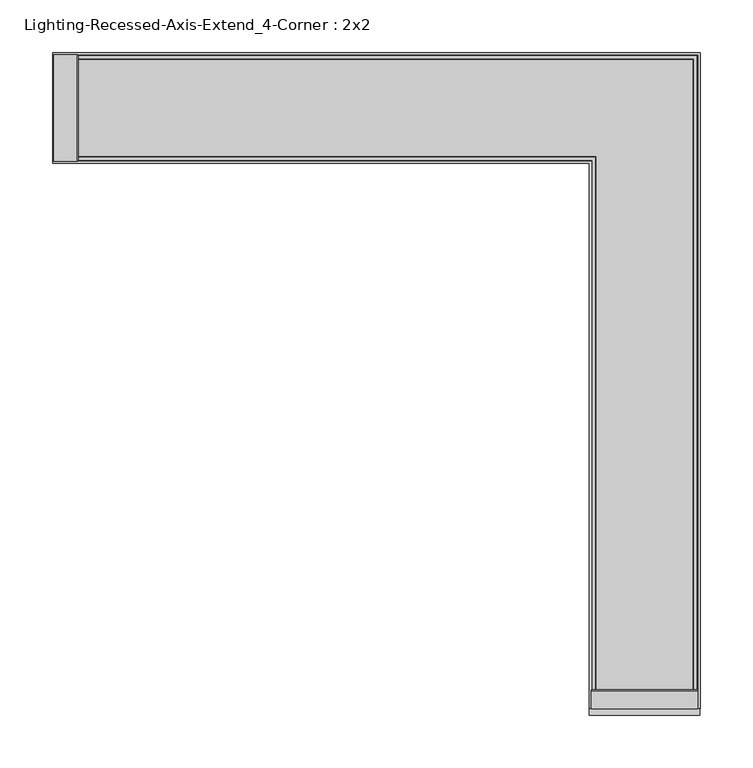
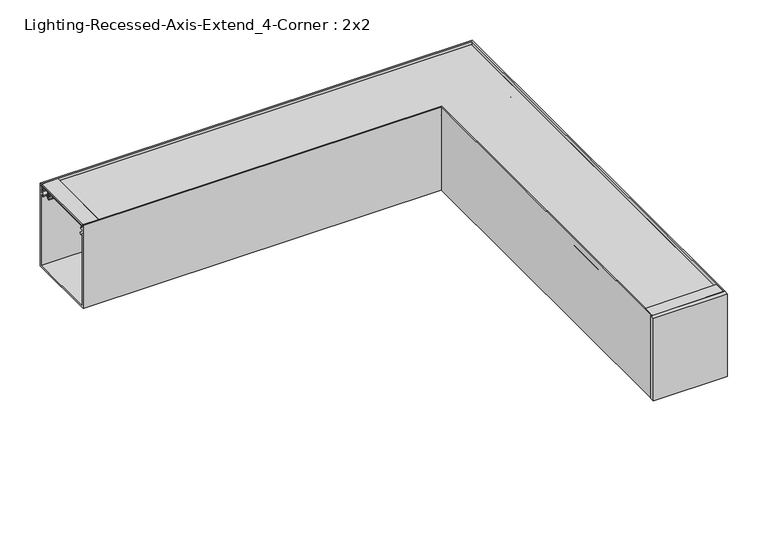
"""IFC4 building model written with IfcOpenShell, lengths in millimetres: light fixture geometry, Lighting-Recessed-Axis-Extend_4-Corner : 2x2."""

from ifc_helpers import new_model, si_unit, frame, origin, place, context, project, spatial, polyline, circle_curve, ellipse_curve, outline, extrude, source, transform, mapped, element, save
from ifc_brep_helpers import plane_surface, cylinder_surface, revolved_surface, advanced_brep


def lighting_recessed_axis_extend_4_corner_2x2_4d560086(model_context):
    return source(origin(), model_context, "Body", "SolidModel", [
        extrude(outline(polyline([(-1.1017139, -539.09849), (0.0, -540.0230337), (0.0, -562.3801463), (-1.1017139, -563.30469), (-2.57175, -563.30469), (-2.57175, -562.51094), (-1.778, -562.51094), (-1.778, -556.04029), (-4.5842019, -556.04029), (-4.5842019, -546.36289), (-1.778, -546.36289), (-1.778, -539.89224), (-2.57175, -539.89224), (-2.57175, -539.09849), (-1.1017139, -539.09849)])), frame((0.0, -50.75301, 0.0), z_axis=(0.0, 1.0, 0.0), x_axis=(0.0, 0.0, 1.0)), (0.0, 0.0, 1.0), 101.50602),
        extrude(outline(polyline([(-553.48759, -1.1017139), (-553.48759, -2.57175), (-554.28134, -2.57175), (-554.28134, -1.778), (-561.13299, -1.778), (-561.13299, -4.5842019), (-571.80099, -4.5842019), (-571.80099, 0.0), (-554.4121337, 0.0), (-553.48759, -1.1017139)])), frame((-50.75301, 0.0, 0.0), z_axis=(1.0, 0.0, 0.0), x_axis=(0.0, 1.0, 0.0)), (0.0, 0.0, 1.0), 101.50602),
        extrude(outline(polyline([(-52.78501, -571.80099), (52.78501, -571.80099), (52.78501, -578.15099), (-52.78501, -578.15099), (-52.78501, -571.80099)])), frame((0.0, 0.0, -124.7775), z_axis=(0.0, 0.0, 1.0), x_axis=(1.0, 0.0, 0.0)), (0.0, 0.0, 1.0), 124.7775),
        advanced_brep(
        [(-556.81499, -44.9537362, -4.8895009), (-556.81499, -45.2924281, -11.3521263), (-556.81499, -46.1628914, -17.9580097), (-556.81499, -45.3476056, -19.4557425), (-556.81499, -43.9929166, -20.6551445), (-556.81499, -44.973818, -21.9831631), (-556.81499, -46.5470052, -20.5903092), (-556.81499, -47.8918907, -16.75974), (-556.81499, -46.2564041, -12.7205342), (-556.81499, -46.9204959, -10.8713211), (-556.81499, -46.607002, -4.8895009), (-556.81499, -49.61001, -4.8895009), (-556.81499, -49.61001, -2.9845), (-556.81499, 49.61001, -2.9845), (-556.81499, 49.61001, -4.8895009), (-556.81499, 46.607002, -4.8895009), (-556.81499, 46.9204959, -10.8713211), (-556.81499, 46.2564041, -12.7205342), (-556.81499, 47.8918907, -16.75974), (-556.81499, 46.5470052, -20.5903092), (-556.81499, 44.973818, -21.9831631), (-556.81499, 43.9929166, -20.6551445), (-556.81499, 45.3476056, -19.4557425), (-556.81499, 46.1628914, -17.9580097), (-556.81499, 45.2924281, -11.3521263), (-556.81499, 44.9537362, -4.8895009), (-44.9537362, -556.81499, -4.8895009), (44.9537362, -556.81499, -4.8895009), (45.2924281, -556.81499, -11.3521263), (46.1628914, -556.81499, -17.9580097), (45.3476056, -556.81499, -19.4557425), (43.9929166, -556.81499, -20.6551445), (44.973818, -556.81499, -21.9831631), (46.5470052, -556.81499, -20.5903092), (47.8918907, -556.81499, -16.75974), (46.2564041, -556.81499, -12.7205342), (46.9204959, -556.81499, -10.8713211), (46.607002, -556.81499, -4.8895009), (49.61001, -556.81499, -4.8895009), (49.61001, -556.81499, -2.9845), (-49.61001, -556.81499, -2.9845), (-49.61001, -556.81499, -4.8895009), (-46.607002, -556.81499, -4.8895009), (-46.9204959, -556.81499, -10.8713211), (-46.2564041, -556.81499, -12.7205342), (-47.8918907, -556.81499, -16.75974), (-46.5470052, -556.81499, -20.5903092), (-44.973818, -556.81499, -21.9831631), (-43.9929166, -556.81499, -20.6551445), (-45.3476056, -556.81499, -19.4557425), (-46.1628914, -556.81499, -17.9580097), (-45.2924281, -556.81499, -11.3521263), (-44.9537362, -44.9537362, -4.8895009), (-45.2924281, -45.2924281, -11.3521263), (-46.1628914, -46.1628914, -17.9580097), (-45.3476056, -45.3476056, -19.4557425), (-43.9929166, -43.9929166, -20.6551445), (-44.973818, -44.973818, -21.9831631), (-46.5470052, -46.5470052, -20.5903092), (-47.8918907, -47.8918907, -16.75974), (-46.2564041, -46.2564041, -12.7205342), (-46.9204959, -46.9204959, -10.8713211), (-46.607002, -46.607002, -4.8895009), (-49.61001, -49.61001, -4.8895009), (-49.61001, -49.61001, -2.9845), (49.61001, 49.61001, -2.9845), (44.9537362, 44.9537362, -4.8895009), (49.61001, 49.61001, -4.8895009), (46.607002, 46.607002, -4.8895009), (46.9204959, 46.9204959, -10.8713211), (46.2564041, 46.2564041, -12.7205342), (47.8918907, 47.8918907, -16.75974), (46.5470052, 46.5470052, -20.5903092), (44.973818, 44.973818, -21.9831631), (43.9929166, 43.9929166, -20.6551445), (45.3476056, 45.3476056, -19.4557425), (46.1628914, 46.1628914, -17.9580097), (45.2924281, 45.2924281, -11.3521263)],
        [
            (0, 1),
            (1, 2, circle_curve(frame((-556.81499, -48.03521, -14.351), z_axis=(-1.0, 0.0, 0.0), x_axis=(0.0, 0.6748971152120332, 0.7379118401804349)), 4.064)),
            (2, 3, circle_curve(frame((-556.81499, -42.930354, -17.1691543), z_axis=(1.0, 0.0, 0.0), x_axis=(0.0, -0.9714904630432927, -0.23707863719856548)), 3.3274001)),
            (3, 4, circle_curve(frame((-556.81499, -37.9113277, -12.4214292), z_axis=(1.0, 0.0, 0.0), x_axis=(0.0, -0.7264901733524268, -0.68717685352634)), 10.2362001)),
            (4, 5, circle_curve(frame((-556.81499, -44.4833673, -21.3191538), z_axis=(-1.0, 0.0, 0.0), x_axis=(0.0, 0.5941256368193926, 0.8043722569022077)), 0.8255)),
            (5, 6, circle_curve(frame((-556.81499, -37.9113269, -12.4214283), z_axis=(-1.0, 0.0, 0.0), x_axis=(0.0, -0.594125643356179, -0.8043722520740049)), 11.8872013)),
            (6, 7, circle_curve(frame((-556.81499, -42.930354, -17.1691543), z_axis=(-1.0, 0.0, 0.0), x_axis=(0.0, -0.7264685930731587, -0.6871996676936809)), 4.9784001)),
            (7, 8, circle_curve(frame((-556.81499, -48.03521, -14.351), z_axis=(1.0, 0.0, 0.0), x_axis=(0.0, 0.05939464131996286, -0.9982345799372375)), 2.413)),
            (8, 9, circle_curve(frame((-556.81499, -44.3839769, -11.0042544), z_axis=(-1.0, 0.0, 0.0), x_axis=(0.0, -0.7371760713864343, -0.675700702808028)), 2.54)),
            (9, 10),
            (10, 11),
            (11, 12),
            (12, 13),
            (13, 14),
            (14, 15),
            (15, 16),
            (16, 17, circle_curve(frame((-556.81499, 44.3839769, -11.0042544), z_axis=(-1.0, 0.0, 0.0), x_axis=(0.0, 0.7371760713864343, -0.675700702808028)), 2.54)),
            (17, 18, circle_curve(frame((-556.81499, 48.03521, -14.351), z_axis=(1.0, 0.0, 0.0), x_axis=(0.0, -0.05939464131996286, -0.9982345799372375)), 2.413)),
            (18, 19, circle_curve(frame((-556.81499, 42.930354, -17.1691543), z_axis=(-1.0, 0.0, 0.0), x_axis=(0.0, 0.7264685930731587, -0.6871996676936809)), 4.9784001)),
            (19, 20, circle_curve(frame((-556.81499, 37.9113269, -12.4214283), z_axis=(-1.0, 0.0, 0.0), x_axis=(0.0, 0.594125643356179, -0.8043722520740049)), 11.8872013)),
            (20, 21, circle_curve(frame((-556.81499, 44.4833673, -21.3191538), z_axis=(-1.0, 0.0, 0.0), x_axis=(0.0, -0.5941256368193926, 0.8043722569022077)), 0.8255)),
            (21, 22, circle_curve(frame((-556.81499, 37.9113277, -12.4214292), z_axis=(1.0, 0.0, 0.0), x_axis=(0.0, 0.7264901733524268, -0.68717685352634)), 10.2362001)),
            (22, 23, circle_curve(frame((-556.81499, 42.930354, -17.1691543), z_axis=(1.0, 0.0, 0.0), x_axis=(0.0, 0.9714904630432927, -0.23707863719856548)), 3.3274001)),
            (23, 24, circle_curve(frame((-556.81499, 48.03521, -14.351), z_axis=(-1.0, 0.0, 0.0), x_axis=(0.0, -0.6748971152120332, 0.7379118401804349)), 4.064)),
            (24, 25),
            (25, 0),
            (26, 27),
            (27, 28),
            (28, 29, circle_curve(frame((48.03521, -556.81499, -14.351), z_axis=(0.0, -1.0, 0.0), x_axis=(-0.6748971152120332, 0.0, 0.7379118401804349)), 4.064)),
            (29, 30, circle_curve(frame((42.930354, -556.81499, -17.1691543), z_axis=(0.0, 1.0, 0.0), x_axis=(0.9714904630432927, 0.0, -0.23707863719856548)), 3.3274001)),
            (30, 31, circle_curve(frame((37.9113277, -556.81499, -12.4214292), z_axis=(0.0, 1.0, 0.0), x_axis=(0.7264901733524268, 0.0, -0.68717685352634)), 10.2362001)),
            (31, 32, circle_curve(frame((44.4833673, -556.81499, -21.3191538), z_axis=(0.0, -1.0, 0.0), x_axis=(-0.5941256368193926, 0.0, 0.8043722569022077)), 0.8255)),
            (32, 33, circle_curve(frame((37.9113269, -556.81499, -12.4214283), z_axis=(0.0, -1.0, 0.0), x_axis=(0.594125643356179, 0.0, -0.8043722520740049)), 11.8872013)),
            (33, 34, circle_curve(frame((42.930354, -556.81499, -17.1691543), z_axis=(0.0, -1.0, 0.0), x_axis=(0.7264685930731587, 0.0, -0.6871996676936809)), 4.9784001)),
            (34, 35, circle_curve(frame((48.03521, -556.81499, -14.351), z_axis=(0.0, 1.0, 0.0), x_axis=(-0.05939464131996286, 0.0, -0.9982345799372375)), 2.413)),
            (35, 36, circle_curve(frame((44.3839769, -556.81499, -11.0042544), z_axis=(0.0, -1.0, 0.0), x_axis=(0.7371760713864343, 0.0, -0.675700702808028)), 2.54)),
            (36, 37),
            (37, 38),
            (38, 39),
            (39, 40),
            (40, 41),
            (41, 42),
            (42, 43),
            (43, 44, circle_curve(frame((-44.3839769, -556.81499, -11.0042544), z_axis=(0.0, -1.0, 0.0), x_axis=(-0.7371760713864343, 0.0, -0.675700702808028)), 2.54)),
            (44, 45, circle_curve(frame((-48.03521, -556.81499, -14.351), z_axis=(0.0, 1.0, 0.0), x_axis=(0.05939464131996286, 0.0, -0.9982345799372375)), 2.413)),
            (45, 46, circle_curve(frame((-42.930354, -556.81499, -17.1691543), z_axis=(0.0, -1.0, 0.0), x_axis=(-0.7264685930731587, 0.0, -0.6871996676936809)), 4.9784001)),
            (46, 47, circle_curve(frame((-37.9113269, -556.81499, -12.4214283), z_axis=(0.0, -1.0, 0.0), x_axis=(-0.594125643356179, 0.0, -0.8043722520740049)), 11.8872013)),
            (47, 48, circle_curve(frame((-44.4833673, -556.81499, -21.3191538), z_axis=(0.0, -1.0, 0.0), x_axis=(0.5941256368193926, 0.0, 0.8043722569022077)), 0.8255)),
            (48, 49, circle_curve(frame((-37.9113277, -556.81499, -12.4214292), z_axis=(0.0, 1.0, 0.0), x_axis=(-0.7264901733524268, 0.0, -0.68717685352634)), 10.2362001)),
            (49, 50, circle_curve(frame((-42.930354, -556.81499, -17.1691543), z_axis=(0.0, 1.0, 0.0), x_axis=(-0.9714904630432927, 0.0, -0.23707863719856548)), 3.3274001)),
            (50, 51, circle_curve(frame((-48.03521, -556.81499, -14.351), z_axis=(0.0, -1.0, 0.0), x_axis=(0.6748971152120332, 0.0, 0.7379118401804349)), 4.064)),
            (51, 26),
            (0, 52),
            (52, 53),
            (53, 1),
            (53, 54, ellipse_curve(frame((-48.03521, -48.03521, -14.351), z_axis=(-0.7071067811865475, 0.7071067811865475, 0.0), x_axis=(-0.7071067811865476, -0.7071067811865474, 0.0)), 5.7473639, 4.064)),
            (54, 2),
            (54, 55, ellipse_curve(frame((-42.930354, -42.930354, -17.1691543), z_axis=(0.7071067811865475, -0.7071067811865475, 0.0), x_axis=(0.7071067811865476, 0.7071067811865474, 0.0)), 4.7056543, 3.3274001)),
            (55, 3),
            (55, 56, ellipse_curve(frame((-37.9113277, -37.9113277, -12.4214292), z_axis=(0.7071067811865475, -0.7071067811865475, 0.0), x_axis=(0.7071067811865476, 0.7071067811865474, 0.0)), 14.476173, 10.2362001)),
            (56, 4),
            (56, 57, ellipse_curve(frame((-44.4833673, -44.4833673, -21.3191538), z_axis=(-0.7071067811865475, 0.7071067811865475, 0.0), x_axis=(-0.7071067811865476, -0.7071067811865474, 0.0)), 1.1674333, 0.8255)),
            (57, 5),
            (57, 58, ellipse_curve(frame((-37.9113269, -37.9113269, -12.4214283), z_axis=(-0.7071067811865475, 0.7071067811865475, 0.0), x_axis=(-0.7071067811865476, -0.7071067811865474, 0.0)), 16.8110412, 11.8872013)),
            (58, 6),
            (58, 59, ellipse_curve(frame((-42.930354, -42.930354, -17.1691543), z_axis=(-0.7071067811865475, 0.7071067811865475, 0.0), x_axis=(-0.7071067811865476, -0.7071067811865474, 0.0)), 7.0405209, 4.9784001)),
            (59, 7),
            (59, 60, ellipse_curve(frame((-48.03521, -48.03521, -14.351), z_axis=(0.7071067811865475, -0.7071067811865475, 0.0), x_axis=(0.7071067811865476, 0.7071067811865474, 0.0)), 3.4124973, 2.413)),
            (60, 8),
            (60, 61, ellipse_curve(frame((-44.3839769, -44.3839769, -11.0042544), z_axis=(-0.7071067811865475, 0.7071067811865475, 0.0), x_axis=(-0.7071067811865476, -0.7071067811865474, 0.0)), 3.5921024, 2.54)),
            (61, 9),
            (61, 62),
            (62, 10),
            (62, 42),
            (41, 63),
            (63, 11),
            (63, 64),
            (64, 12),
            (64, 40),
            (39, 65),
            (65, 13),
            (25, 66),
            (66, 27),
            (26, 52),
            (65, 67),
            (67, 14),
            (67, 38),
            (37, 68),
            (68, 15),
            (68, 69),
            (69, 16),
            (69, 70, ellipse_curve(frame((44.3839769, 44.3839769, -11.0042544), z_axis=(-0.7071067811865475, 0.7071067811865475, 0.0), x_axis=(-0.7071067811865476, -0.7071067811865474, 0.0)), 3.5921024, 2.54)),
            (70, 17),
            (70, 71, ellipse_curve(frame((48.03521, 48.03521, -14.351), z_axis=(0.7071067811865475, -0.7071067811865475, 0.0), x_axis=(0.7071067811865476, 0.7071067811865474, 0.0)), 3.4124973, 2.413)),
            (71, 18),
            (71, 72, ellipse_curve(frame((42.930354, 42.930354, -17.1691543), z_axis=(-0.7071067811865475, 0.7071067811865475, 0.0), x_axis=(-0.7071067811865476, -0.7071067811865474, 0.0)), 7.0405209, 4.9784001)),
            (72, 19),
            (72, 73, ellipse_curve(frame((37.9113269, 37.9113269, -12.4214283), z_axis=(-0.7071067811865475, 0.7071067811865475, 0.0), x_axis=(-0.7071067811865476, -0.7071067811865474, 0.0)), 16.8110412, 11.8872013)),
            (73, 20),
            (73, 74, ellipse_curve(frame((44.4833673, 44.4833673, -21.3191538), z_axis=(-0.7071067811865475, 0.7071067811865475, 0.0), x_axis=(-0.7071067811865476, -0.7071067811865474, 0.0)), 1.1674333, 0.8255)),
            (74, 21),
            (74, 75, ellipse_curve(frame((37.9113277, 37.9113277, -12.4214292), z_axis=(0.7071067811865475, -0.7071067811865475, 0.0), x_axis=(0.7071067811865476, 0.7071067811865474, 0.0)), 14.476173, 10.2362001)),
            (75, 22),
            (75, 76, ellipse_curve(frame((42.930354, 42.930354, -17.1691543), z_axis=(0.7071067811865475, -0.7071067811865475, 0.0), x_axis=(0.7071067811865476, 0.7071067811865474, 0.0)), 4.7056543, 3.3274001)),
            (76, 23),
            (76, 77, ellipse_curve(frame((48.03521, 48.03521, -14.351), z_axis=(-0.7071067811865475, 0.7071067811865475, 0.0), x_axis=(-0.7071067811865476, -0.7071067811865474, 0.0)), 5.7473639, 4.064)),
            (77, 24),
            (77, 66),
            (51, 53),
            (50, 54),
            (49, 55),
            (48, 56),
            (47, 57),
            (46, 58),
            (45, 59),
            (44, 60),
            (43, 61),
            (36, 69),
            (35, 70),
            (34, 71),
            (33, 72),
            (32, 73),
            (31, 74),
            (30, 75),
            (29, 76),
            (28, 77),
        ],
        [
            plane_surface(frame((-556.81499, 0.0, -124.7775), z_axis=(-1.0, 0.0, 0.0), x_axis=(0.0, 0.0, 1.0))),
            plane_surface(frame((0.0, -556.81499, -124.7775), z_axis=(0.0, -1.0, 0.0), x_axis=(0.0, 0.0, 1.0))),
            plane_surface(frame((-556.81499, -44.9537362, -4.8895009), z_axis=(0.0, 0.9986295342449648, -0.05233596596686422), x_axis=(1.0, 0.0, 0.0))),
            cylinder_surface(frame((-556.81499, -48.03521, -14.351), z_axis=(-1.0, 0.0, 0.0), x_axis=(0.0, 0.6748971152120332, 0.7379118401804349)), 4.064),
            revolved_surface(polyline([(-39.6029539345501, -46.1628914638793, -17.95800978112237), (-556.81499, -46.1628914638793, -17.95800978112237)]), (-556.81499, -42.930354, -17.1691543), (1.0000000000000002, 0.0, 0.0)),
            revolved_surface(polyline([(-27.67512760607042, -45.34782648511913, -19.455508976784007), (-556.81499, -45.34782648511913, -19.455508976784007)]), (-556.81499, -37.9113277, -12.4214292), (1.0, 0.0, 0.0)),
            cylinder_surface(frame((-556.81499, -44.4833673, -21.3191538), z_axis=(-1.0, 0.0, 0.0), x_axis=(0.0, 0.5941256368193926, 0.8043722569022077)), 0.8255),
            cylinder_surface(frame((-556.81499, -37.9113269, -12.4214283), z_axis=(-1.0, 0.0, 0.0), x_axis=(0.0, -0.594125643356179, -0.8043722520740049)), 11.8872013),
            cylinder_surface(frame((-556.81499, -42.930354, -17.1691543), z_axis=(-1.0, 0.0, 0.0), x_axis=(0.0, -0.7264685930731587, -0.6871996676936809)), 4.9784001),
            revolved_surface(polyline([(-45.62221001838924, -47.89189073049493, -16.759740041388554), (-556.81499, -47.89189073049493, -16.759740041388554)]), (-556.81499, -48.03521, -14.351), (1.0, 0.0, 0.0)),
            cylinder_surface(frame((-556.81499, -44.3839769, -11.0042544), z_axis=(-1.0, 0.0, 0.0), x_axis=(0.0, -0.7371760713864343, -0.675700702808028)), 2.54),
            plane_surface(frame((-556.81499, -46.9204959, -10.8713211), z_axis=(0.0, -0.9986295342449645, 0.05233596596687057), x_axis=(1.0, 0.0, 0.0))),
            plane_surface(frame((-556.81499, -46.607002, -4.8895009), z_axis=(0.0, 0.0, -1.0), x_axis=(1.0, 0.0, 0.0))),
            plane_surface(frame((-556.81499, -49.61001, -4.8895009), z_axis=(0.0, -1.0, 0.0), x_axis=(1.0, 0.0, 0.0))),
            plane_surface(frame((-556.81499, -49.61001, -2.9845), z_axis=(0.0, 0.0, 1.0), x_axis=(1.0, 0.0, 0.0))),
            plane_surface(frame((-556.81499, 44.9537362, -4.8895009), z_axis=(0.0, 0.0, -1.0), x_axis=(1.0, 0.0, 0.0))),
            plane_surface(frame((-556.81499, 49.61001, -2.9845), z_axis=(0.0, 1.0, 0.0), x_axis=(1.0, 0.0, 0.0))),
            plane_surface(frame((-556.81499, 49.61001, -4.8895009), z_axis=(0.0, 0.0, -1.0), x_axis=(1.0, 0.0, 0.0))),
            plane_surface(frame((-556.81499, 46.607002, -4.8895009), z_axis=(0.0, 0.9986295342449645, 0.05233596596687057), x_axis=(1.0, 0.0, 0.0))),
            cylinder_surface(frame((-556.81499, 44.3839769, -11.0042544), z_axis=(-1.0, 0.0, 0.0), x_axis=(0.0, 0.7371760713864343, -0.675700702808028)), 2.54),
            revolved_surface(polyline([(50.44820998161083, 47.89189073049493, -16.759740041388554), (-556.81499, 47.89189073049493, -16.759740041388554)]), (-556.81499, 48.03521, -14.351), (1.0, 0.0, 0.0)),
            cylinder_surface(frame((-556.81499, 42.930354, -17.1691543), z_axis=(-1.0, 0.0, 0.0), x_axis=(0.0, 0.7264685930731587, -0.6871996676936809)), 4.9784001),
            cylinder_surface(frame((-556.81499, 37.9113269, -12.4214283), z_axis=(-1.0, 0.0, 0.0), x_axis=(0.0, 0.594125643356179, -0.8043722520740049)), 11.8872013),
            cylinder_surface(frame((-556.81499, 44.4833673, -21.3191538), z_axis=(-1.0, 0.0, 0.0), x_axis=(0.0, -0.5941256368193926, 0.8043722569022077)), 0.8255),
            revolved_surface(polyline([(48.14752779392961, 45.34782648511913, -19.455508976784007), (-556.81499, 45.34782648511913, -19.455508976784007)]), (-556.81499, 37.9113277, -12.4214292), (1.0, 0.0, 0.0)),
            revolved_surface(polyline([(46.25775406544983, 46.1628914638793, -17.95800978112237), (-556.81499, 46.1628914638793, -17.95800978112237)]), (-556.81499, 42.930354, -17.1691543), (1.0000000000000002, 0.0, 0.0)),
            cylinder_surface(frame((-556.81499, 48.03521, -14.351), z_axis=(-1.0, 0.0, 0.0), x_axis=(0.0, -0.6748971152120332, 0.7379118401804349)), 4.064),
            plane_surface(frame((-556.81499, 45.2924281, -11.3521263), z_axis=(0.0, -0.9986295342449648, -0.05233596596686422), x_axis=(1.0, 0.0, 0.0))),
            plane_surface(frame((-44.9537362, -44.9537362, -4.8895009), z_axis=(0.9986295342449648, 0.0, -0.05233596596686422), x_axis=(0.0, -1.0, 0.0))),
            cylinder_surface(frame((-48.03521, 0.0, -14.351), z_axis=(0.0, 1.0, 0.0), x_axis=(0.6748971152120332, 0.0, 0.7379118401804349)), 4.064),
            revolved_surface(polyline([(-46.1628914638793, -556.8149900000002, -17.95800978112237), (-46.1628914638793, -39.60295393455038, -17.95800978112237)]), (-42.930354, 0.0, -17.1691543), (0.0, -1.0000000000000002, 0.0)),
            revolved_surface(polyline([(-45.34782648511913, -556.81499, -19.455508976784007), (-45.34782648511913, -27.675127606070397, -19.455508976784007)]), (-37.9113277, 0.0, -12.4214292), (0.0, -1.0, 0.0)),
            cylinder_surface(frame((-44.4833673, 0.0, -21.3191538), z_axis=(0.0, 1.0, 0.0), x_axis=(0.5941256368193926, 0.0, 0.8043722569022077)), 0.8255),
            cylinder_surface(frame((-37.9113269, 0.0, -12.4214283), z_axis=(0.0, 1.0, 0.0), x_axis=(-0.594125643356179, 0.0, -0.8043722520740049)), 11.8872013),
            cylinder_surface(frame((-42.930354, 0.0, -17.1691543), z_axis=(0.0, 1.0, 0.0), x_axis=(-0.7264685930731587, 0.0, -0.6871996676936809)), 4.9784001),
            revolved_surface(polyline([(-47.89189073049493, -556.81499, -16.759740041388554), (-47.89189073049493, -45.62221001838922, -16.759740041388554)]), (-48.03521, 0.0, -14.351), (0.0, -1.0, 0.0)),
            cylinder_surface(frame((-44.3839769, 0.0, -11.0042544), z_axis=(0.0, 1.0, 0.0), x_axis=(-0.7371760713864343, 0.0, -0.675700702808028)), 2.54),
            plane_surface(frame((-46.9204959, -46.9204959, -10.8713211), z_axis=(-0.9986295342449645, 0.0, 0.05233596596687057), x_axis=(0.0, -1.0, 0.0))),
            plane_surface(frame((-49.61001, -49.61001, -4.8895009), z_axis=(-1.0, 0.0, 0.0), x_axis=(0.0, -1.0, 0.0))),
            plane_surface(frame((49.61001, 49.61001, -2.9845), z_axis=(1.0, 0.0, 0.0), x_axis=(0.0, -1.0, 0.0))),
            plane_surface(frame((46.607002, 46.607002, -4.8895009), z_axis=(0.9986295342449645, 0.0, 0.05233596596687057), x_axis=(0.0, -1.0, 0.0))),
            cylinder_surface(frame((44.3839769, 0.0, -11.0042544), z_axis=(0.0, 1.0, 0.0), x_axis=(0.7371760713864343, 0.0, -0.675700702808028)), 2.54),
            revolved_surface(polyline([(47.89189073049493, -556.81499, -16.759740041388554), (47.89189073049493, 50.44820998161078, -16.759740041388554)]), (48.03521, 0.0, -14.351), (0.0, -1.0, 0.0)),
            cylinder_surface(frame((42.930354, 0.0, -17.1691543), z_axis=(0.0, 1.0, 0.0), x_axis=(0.7264685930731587, 0.0, -0.6871996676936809)), 4.9784001),
            cylinder_surface(frame((37.9113269, 0.0, -12.4214283), z_axis=(0.0, 1.0, 0.0), x_axis=(0.594125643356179, 0.0, -0.8043722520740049)), 11.8872013),
            cylinder_surface(frame((44.4833673, 0.0, -21.3191538), z_axis=(0.0, 1.0, 0.0), x_axis=(-0.5941256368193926, 0.0, 0.8043722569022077)), 0.8255),
            revolved_surface(polyline([(45.34782648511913, -556.81499, -19.455508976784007), (45.34782648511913, 48.147527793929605, -19.455508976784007)]), (37.9113277, 0.0, -12.4214292), (0.0, -1.0, 0.0)),
            revolved_surface(polyline([(46.1628914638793, -556.8149900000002, -17.95800978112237), (46.1628914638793, 46.25775406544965, -17.95800978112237)]), (42.930354, 0.0, -17.1691543), (0.0, -1.0000000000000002, 0.0)),
            cylinder_surface(frame((48.03521, 0.0, -14.351), z_axis=(0.0, 1.0, 0.0), x_axis=(-0.6748971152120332, 0.0, 0.7379118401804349)), 4.064),
            plane_surface(frame((45.2924281, 45.2924281, -11.3521263), z_axis=(-0.9986295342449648, 0.0, -0.05233596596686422), x_axis=(0.0, -1.0, 0.0))),
        ],
        [
            (0, [[1, 2, 3, 4, 5, 6, 7, 8, 9, 10, 11, 12, 13, 14, 15, 16, 17, 18, 19, 20, 21, 22, 23, 24, 25, 26]]),
            (1, [[27, 28, 29, 30, 31, 32, 33, 34, 35, 36, 37, 38, 39, 40, 41, 42, 43, 44, 45, 46, 47, 48, 49, 50, 51, 52]]),
            (2, [[-1, 53, 54, 55]]),
            (3, [[-2, -55, 56, 57]]),
            (4, [[-3, -57, 58, 59]]),
            (5, [[-4, -59, 60, 61]]),
            (6, [[-5, -61, 62, 63]]),
            (7, [[-6, -63, 64, 65]]),
            (8, [[-7, -65, 66, 67]]),
            (9, [[-8, -67, 68, 69]]),
            (10, [[-9, -69, 70, 71]]),
            (11, [[-10, -71, 72, 73]]),
            (12, [[-11, -73, 74, -42, 75, 76]]),
            (13, [[-12, -76, 77, 78]]),
            (14, [[-13, -78, 79, -40, 80, 81]]),
            (15, [[-26, 82, 83, -27, 84, -53]]),
            (16, [[-14, -81, 85, 86]]),
            (17, [[-15, -86, 87, -38, 88, 89]]),
            (18, [[-16, -89, 90, 91]]),
            (19, [[-17, -91, 92, 93]]),
            (20, [[-18, -93, 94, 95]]),
            (21, [[-19, -95, 96, 97]]),
            (22, [[-20, -97, 98, 99]]),
            (23, [[-21, -99, 100, 101]]),
            (24, [[-22, -101, 102, 103]]),
            (25, [[-23, -103, 104, 105]]),
            (26, [[-24, -105, 106, 107]]),
            (27, [[-25, -107, 108, -82]]),
            (28, [[-54, -84, -52, 109]]),
            (29, [[-56, -109, -51, 110]]),
            (30, [[-58, -110, -50, 111]]),
            (31, [[-60, -111, -49, 112]]),
            (32, [[-62, -112, -48, 113]]),
            (33, [[-64, -113, -47, 114]]),
            (34, [[-66, -114, -46, 115]]),
            (35, [[-68, -115, -45, 116]]),
            (36, [[-70, -116, -44, 117]]),
            (37, [[-72, -117, -43, -74]]),
            (38, [[-77, -75, -41, -79]]),
            (39, [[-85, -80, -39, -87]]),
            (40, [[-90, -88, -37, 118]]),
            (41, [[-92, -118, -36, 119]]),
            (42, [[-94, -119, -35, 120]]),
            (43, [[-96, -120, -34, 121]]),
            (44, [[-98, -121, -33, 122]]),
            (45, [[-100, -122, -32, 123]]),
            (46, [[-102, -123, -31, 124]]),
            (47, [[-104, -124, -30, 125]]),
            (48, [[-106, -125, -29, 126]]),
            (49, [[-108, -126, -28, -83]]),
        ],
    ),
        advanced_brep(
        [(-563.4262619, -50.75301, -14.9098), (-563.4262619, -50.75301, -122.7455), (-563.4262619, 50.75301, -122.7455), (-563.4262619, 50.75301, -14.9098), (-563.4262619, 48.9135897, -14.9098), (-563.4262619, 46.6540646, -16.2143374), (-563.4262619, 45.4706616, -13.9591318), (-563.4262619, 48.84801, -11.1252), (-563.4262619, 48.84801, -12.8778), (-563.4262619, 50.75301, -12.8778), (-563.4262619, 50.75301, -6.35), (-563.4262619, 48.84801, -6.35), (-563.4262619, 48.84801, -7.874), (-563.4262619, 47.19701, -7.7874748), (-563.4262619, 47.19701, -5.08), (-563.4262619, 50.75301, -5.08), (-563.4262619, 50.75301, 0.0), (-563.4262619, 52.78501, 0.0), (-563.4262619, 52.78501, -124.7775), (-563.4262619, -52.78501, -124.7775), (-563.4262619, -52.78501, 0.0), (-563.4262619, -50.75301, 0.0), (-563.4262619, -50.75301, -5.08), (-563.4262619, -47.19701, -5.08), (-563.4262619, -47.19701, -7.7874748), (-563.4262619, -48.84801, -7.874), (-563.4262619, -48.84801, -6.35), (-563.4262619, -50.75301, -6.35), (-563.4262619, -50.75301, -12.8778), (-563.4262619, -48.84801, -12.8778), (-563.4262619, -48.84801, -11.1252), (-563.4262619, -45.4706616, -13.9591318), (-563.4262619, -46.6540646, -16.2143374), (-563.4262619, -48.9135897, -14.9098), (-50.4173819, -571.80099, -14.9098), (-48.5779616, -571.80099, -14.9098), (-46.3184365, -571.80099, -16.2143374), (-45.1350335, -571.80099, -13.9591318), (-48.5123819, -571.80099, -11.1252), (-48.5123819, -571.80099, -12.8778), (-50.4173819, -571.80099, -12.8778), (-50.4173819, -571.80099, -6.35), (-48.5123819, -571.80099, -6.35), (-48.5123819, -571.80099, -7.874), (-46.8613819, -571.80099, -7.7874748), (-46.8613819, -571.80099, -5.08), (-50.4173819, -571.80099, -5.08), (-50.4173819, -571.80099, 0.0), (-52.4493819, -571.80099, 0.0), (-52.4493819, -571.80099, -124.7775), (53.1206381, -571.80099, -124.7775), (53.1206381, -571.80099, 0.0), (51.0886381, -571.80099, 0.0), (51.0886381, -571.80099, -5.08), (47.5326381, -571.80099, -5.08), (47.5326381, -571.80099, -7.7874748), (49.1836381, -571.80099, -7.874), (49.1836381, -571.80099, -6.35), (51.0886381, -571.80099, -6.35), (51.0886381, -571.80099, -12.8778), (49.1836381, -571.80099, -12.8778), (49.1836381, -571.80099, -11.1252), (45.8062898, -571.80099, -13.9591318), (46.9896928, -571.80099, -16.2143374), (49.2492179, -571.80099, -14.9098), (51.0886381, -571.80099, -14.9098), (51.0886381, -571.80099, -122.7455), (-50.4173819, -571.80099, -122.7455), (-50.4173819, -50.75301, -14.9098), (-50.4173819, -50.75301, -122.7455), (51.0886381, 50.75301, -122.7455), (53.1206381, 52.78501, -124.7775), (-52.4493819, -52.78501, -124.7775), (-52.4493819, -52.78501, 0.0), (-50.4173819, -50.75301, 0.0), (-50.4173819, -50.75301, -5.08), (-46.8613819, -47.19701, -5.08), (-46.8613819, -47.19701, -7.7874748), (-48.5123819, -48.84801, -7.874), (-48.5123819, -48.84801, -6.35), (-50.4173819, -50.75301, -6.35), (-50.4173819, -50.75301, -12.8778), (-48.5123819, -48.84801, -12.8778), (-48.5123819, -48.84801, -11.1252), (-45.1350335, -45.4706616, -13.9591318), (-46.3184365, -46.6540646, -16.2143374), (-48.5779616, -48.9135897, -14.9098), (51.0886381, 50.75301, -14.9098), (49.2492179, 48.9135897, -14.9098), (46.9896928, 46.6540646, -16.2143374), (45.8062898, 45.4706616, -13.9591318), (49.1836381, 48.84801, -11.1252), (49.1836381, 48.84801, -12.8778), (51.0886381, 50.75301, -12.8778), (51.0886381, 50.75301, -6.35), (49.1836381, 48.84801, -6.35), (49.1836381, 48.84801, -7.874), (47.5326381, 47.19701, -7.7874748), (47.5326381, 47.19701, -5.08), (51.0886381, 50.75301, -5.08), (51.0886381, 50.75301, 0.0), (53.1206381, 52.78501, 0.0)],
        [
            (0, 1),
            (1, 2),
            (2, 3),
            (3, 4),
            (4, 5, circle_curve(frame((-563.4262619, 47.4072397, -14.9098), z_axis=(-1.0, 0.0, 0.0), x_axis=(0.0, 1.0, 0.0)), 1.5063501)),
            (5, 6, circle_curve(frame((-563.4262619, 47.8452221, -14.1511921), z_axis=(-1.0, 0.0, 0.0), x_axis=(0.0, -0.5000000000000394, -0.866025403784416)), 2.382315)),
            (6, 7),
            (7, 8),
            (8, 9),
            (9, 10),
            (10, 11),
            (11, 12),
            (12, 13),
            (13, 14),
            (14, 15),
            (15, 16),
            (16, 17),
            (17, 18),
            (18, 19),
            (19, 20),
            (20, 21),
            (21, 22),
            (22, 23),
            (23, 24),
            (24, 25),
            (25, 26),
            (26, 27),
            (27, 28),
            (28, 29),
            (29, 30),
            (30, 31),
            (31, 32, circle_curve(frame((-563.4262619, -47.8452221, -14.1511921), z_axis=(-1.0, 0.0, 0.0), x_axis=(0.0, 0.5000000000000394, -0.866025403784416)), 2.382315)),
            (32, 33, circle_curve(frame((-563.4262619, -47.4072397, -14.9098), z_axis=(-1.0, 0.0, 0.0), x_axis=(0.0, -1.0, 0.0)), 1.5063501)),
            (33, 0),
            (34, 35),
            (35, 36, circle_curve(frame((-47.0716115, -571.80099, -14.9098), z_axis=(0.0, -1.0, 0.0), x_axis=(-1.0, 0.0, 0.0)), 1.5063501)),
            (36, 37, circle_curve(frame((-47.509594, -571.80099, -14.1511921), z_axis=(0.0, -1.0, 0.0), x_axis=(0.5000000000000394, 0.0, -0.866025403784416)), 2.382315)),
            (37, 38),
            (38, 39),
            (39, 40),
            (40, 41),
            (41, 42),
            (42, 43),
            (43, 44),
            (44, 45),
            (45, 46),
            (46, 47),
            (47, 48),
            (48, 49),
            (49, 50),
            (50, 51),
            (51, 52),
            (52, 53),
            (53, 54),
            (54, 55),
            (55, 56),
            (56, 57),
            (57, 58),
            (58, 59),
            (59, 60),
            (60, 61),
            (61, 62),
            (62, 63, circle_curve(frame((48.1808503, -571.80099, -14.1511921), z_axis=(0.0, -1.0, 0.0), x_axis=(-0.5000000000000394, 0.0, -0.866025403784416)), 2.382315)),
            (63, 64, circle_curve(frame((47.7428678, -571.80099, -14.9098), z_axis=(0.0, -1.0, 0.0), x_axis=(1.0, 0.0, 0.0)), 1.5063501)),
            (64, 65),
            (65, 66),
            (66, 67),
            (67, 34),
            (0, 68),
            (68, 69),
            (69, 1),
            (69, 67),
            (66, 70),
            (70, 2),
            (18, 71),
            (71, 50),
            (49, 72),
            (72, 19),
            (72, 73),
            (73, 20),
            (73, 48),
            (47, 74),
            (74, 21),
            (74, 75),
            (75, 22),
            (75, 46),
            (45, 76),
            (76, 23),
            (76, 77),
            (77, 24),
            (77, 78),
            (78, 25),
            (78, 79),
            (79, 26),
            (79, 42),
            (41, 80),
            (80, 27),
            (80, 81),
            (81, 28),
            (81, 40),
            (39, 82),
            (82, 29),
            (82, 83),
            (83, 30),
            (83, 84),
            (84, 31),
            (84, 85, ellipse_curve(frame((-47.509594, -47.8452221, -14.1511921), z_axis=(-0.7071067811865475, 0.7071067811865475, 0.0), x_axis=(-0.7071067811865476, -0.7071067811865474, 0.0)), 3.3691022, 2.382315)),
            (85, 32),
            (85, 86, ellipse_curve(frame((-47.0716115, -47.4072397, -14.9098), z_axis=(-0.7071067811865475, 0.7071067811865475, 0.0), x_axis=(-0.7071067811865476, -0.7071067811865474, 0.0)), 2.1303007, 1.5063501)),
            (86, 33),
            (86, 35),
            (34, 68),
            (70, 87),
            (87, 3),
            (87, 65),
            (64, 88),
            (88, 4),
            (88, 89, ellipse_curve(frame((47.7428678, 47.4072397, -14.9098), z_axis=(-0.7071067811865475, 0.7071067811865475, 0.0), x_axis=(-0.7071067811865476, -0.7071067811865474, 0.0)), 2.1303007, 1.5063501)),
            (89, 5),
            (89, 90, ellipse_curve(frame((48.1808503, 47.8452221, -14.1511921), z_axis=(-0.7071067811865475, 0.7071067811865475, 0.0), x_axis=(-0.7071067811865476, -0.7071067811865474, 0.0)), 3.3691022, 2.382315)),
            (90, 6),
            (90, 91),
            (91, 7),
            (91, 92),
            (92, 8),
            (92, 60),
            (59, 93),
            (93, 9),
            (93, 94),
            (94, 10),
            (94, 58),
            (57, 95),
            (95, 11),
            (95, 96),
            (96, 12),
            (96, 97),
            (97, 13),
            (97, 98),
            (98, 14),
            (98, 54),
            (53, 99),
            (99, 15),
            (99, 100),
            (100, 16),
            (100, 52),
            (51, 101),
            (101, 17),
            (101, 71),
            (63, 89),
            (62, 90),
            (61, 91),
            (56, 96),
            (55, 97),
            (44, 77),
            (43, 78),
            (38, 83),
            (37, 84),
            (36, 85),
        ],
        [
            plane_surface(frame((-563.4262619, 0.0, -124.7775), z_axis=(-1.0, 0.0, 0.0), x_axis=(0.0, 0.0, 1.0))),
            plane_surface(frame((0.3356281, -571.80099, -124.7775), z_axis=(0.0, -1.0, 0.0), x_axis=(0.0, 0.0, 1.0))),
            plane_surface(frame((-563.4262619, -50.75301, -14.9098), z_axis=(0.0, 1.0, 0.0), x_axis=(1.0, 0.0, 0.0))),
            plane_surface(frame((-563.4262619, -50.75301, -122.7455), z_axis=(0.0, 0.0, 1.0), x_axis=(1.0, 0.0, 0.0))),
            plane_surface(frame((-563.4262619, 52.78501, -124.7775), z_axis=(0.0, 0.0, -1.0), x_axis=(1.0, 0.0, 0.0))),
            plane_surface(frame((-563.4262619, -52.78501, -124.7775), z_axis=(0.0, -1.0, 0.0), x_axis=(1.0, 0.0, 0.0))),
            plane_surface(frame((-563.4262619, -52.78501, 0.0), z_axis=(0.0, 0.0, 1.0), x_axis=(1.0, 0.0, 0.0))),
            plane_surface(frame((-563.4262619, -50.75301, 0.0), z_axis=(0.0, 1.0, 0.0), x_axis=(1.0, 0.0, 0.0))),
            plane_surface(frame((-563.4262619, -50.75301, -5.08), z_axis=(0.0, 0.0, 1.0), x_axis=(1.0, 0.0, 0.0))),
            plane_surface(frame((-563.4262619, -47.19701, -5.08), z_axis=(0.0, 1.0, 0.0), x_axis=(1.0, 0.0, 0.0))),
            plane_surface(frame((-563.4262619, -47.19701, -7.7874748), z_axis=(0.0, 0.052335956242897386, -0.9986295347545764), x_axis=(1.0, 0.0, 0.0))),
            plane_surface(frame((-563.4262619, -48.84801, -7.874), z_axis=(0.0, -1.0, 0.0), x_axis=(1.0, 0.0, 0.0))),
            plane_surface(frame((-563.4262619, -48.84801, -6.35), z_axis=(0.0, 0.0, -1.0), x_axis=(1.0, 0.0, 0.0))),
            plane_surface(frame((-563.4262619, -50.75301, -6.35), z_axis=(0.0, 1.0, 0.0), x_axis=(1.0, 0.0, 0.0))),
            plane_surface(frame((-563.4262619, -50.75301, -12.8778), z_axis=(0.0, 0.0, 1.0), x_axis=(1.0, 0.0, 0.0))),
            plane_surface(frame((-563.4262619, -48.84801, -12.8778), z_axis=(0.0, -1.0, 0.0), x_axis=(1.0, 0.0, 0.0))),
            plane_surface(frame((-563.4262619, -48.84801, -11.1252), z_axis=(0.0, 0.6427876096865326, 0.7660444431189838), x_axis=(1.0, 0.0, 0.0))),
            cylinder_surface(frame((-563.4262619, -47.8452221, -14.1511921), z_axis=(-1.0, 0.0, 0.0), x_axis=(0.0, 0.5000000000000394, -0.866025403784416)), 2.382315),
            cylinder_surface(frame((-563.4262619, -47.4072397, -14.9098), z_axis=(-1.0, 0.0, 0.0), x_axis=(0.0, -1.0, 0.0)), 1.5063501),
            plane_surface(frame((-563.4262619, -48.9135897, -14.9098), z_axis=(0.0, 0.0, -1.0), x_axis=(1.0, 0.0, 0.0))),
            plane_surface(frame((-563.4262619, 50.75301, -122.7455), z_axis=(0.0, -1.0, 0.0), x_axis=(1.0, 0.0, 0.0))),
            plane_surface(frame((-563.4262619, 50.75301, -14.9098), z_axis=(0.0, 0.0, -1.0), x_axis=(1.0, 0.0, 0.0))),
            cylinder_surface(frame((-563.4262619, 47.4072397, -14.9098), z_axis=(-1.0, 0.0, 0.0), x_axis=(0.0, 1.0, 0.0)), 1.5063501),
            cylinder_surface(frame((-563.4262619, 47.8452221, -14.1511921), z_axis=(-1.0, 0.0, 0.0), x_axis=(0.0, -0.5000000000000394, -0.866025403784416)), 2.382315),
            plane_surface(frame((-563.4262619, 45.4706616, -13.9591318), z_axis=(0.0, -0.6427876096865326, 0.7660444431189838), x_axis=(1.0, 0.0, 0.0))),
            plane_surface(frame((-563.4262619, 48.84801, -11.1252), z_axis=(0.0, 1.0, 0.0), x_axis=(1.0, 0.0, 0.0))),
            plane_surface(frame((-563.4262619, 48.84801, -12.8778), z_axis=(0.0, 0.0, 1.0), x_axis=(1.0, 0.0, 0.0))),
            plane_surface(frame((-563.4262619, 50.75301, -12.8778), z_axis=(0.0, -1.0, 0.0), x_axis=(1.0, 0.0, 0.0))),
            plane_surface(frame((-563.4262619, 50.75301, -6.35), z_axis=(0.0, 0.0, -1.0), x_axis=(1.0, 0.0, 0.0))),
            plane_surface(frame((-563.4262619, 48.84801, -6.35), z_axis=(0.0, 1.0, 0.0), x_axis=(1.0, 0.0, 0.0))),
            plane_surface(frame((-563.4262619, 48.84801, -7.874), z_axis=(0.0, -0.052335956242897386, -0.9986295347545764), x_axis=(1.0, 0.0, 0.0))),
            plane_surface(frame((-563.4262619, 47.19701, -7.7874748), z_axis=(0.0, -1.0, 0.0), x_axis=(1.0, 0.0, 0.0))),
            plane_surface(frame((-563.4262619, 47.19701, -5.08), z_axis=(0.0, 0.0, 1.0), x_axis=(1.0, 0.0, 0.0))),
            plane_surface(frame((-563.4262619, 50.75301, -5.08), z_axis=(0.0, -1.0, 0.0), x_axis=(1.0, 0.0, 0.0))),
            plane_surface(frame((-563.4262619, 50.75301, 0.0), z_axis=(0.0, 0.0, 1.0), x_axis=(1.0, 0.0, 0.0))),
            plane_surface(frame((-563.4262619, 52.78501, 0.0), z_axis=(0.0, 1.0, 0.0), x_axis=(1.0, 0.0, 0.0))),
            plane_surface(frame((-50.4173819, -50.75301, -14.9098), z_axis=(1.0, 0.0, 0.0), x_axis=(0.0, -1.0, 0.0))),
            plane_surface(frame((51.0886381, 50.75301, -122.7455), z_axis=(-1.0, 0.0, 0.0), x_axis=(0.0, -1.0, 0.0))),
            cylinder_surface(frame((47.7428678, 0.0, -14.9098), z_axis=(0.0, 1.0, 0.0), x_axis=(1.0, 0.0, 0.0)), 1.5063501),
            cylinder_surface(frame((48.1808503, 0.0, -14.1511921), z_axis=(0.0, 1.0, 0.0), x_axis=(-0.5000000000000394, 0.0, -0.866025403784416)), 2.382315),
            plane_surface(frame((45.8062898, 45.4706616, -13.9591318), z_axis=(-0.6427876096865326, 0.0, 0.7660444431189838), x_axis=(0.0, -1.0, 0.0))),
            plane_surface(frame((49.1836381, 48.84801, -11.1252), z_axis=(1.0, 0.0, 0.0), x_axis=(0.0, -1.0, 0.0))),
            plane_surface(frame((51.0886381, 50.75301, -12.8778), z_axis=(-1.0, 0.0, 0.0), x_axis=(0.0, -1.0, 0.0))),
            plane_surface(frame((49.1836381, 48.84801, -6.35), z_axis=(1.0, 0.0, 0.0), x_axis=(0.0, -1.0, 0.0))),
            plane_surface(frame((49.1836381, 48.84801, -7.874), z_axis=(-0.052335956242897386, 0.0, -0.9986295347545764), x_axis=(0.0, -1.0, 0.0))),
            plane_surface(frame((47.5326381, 47.19701, -7.7874748), z_axis=(-1.0, 0.0, 0.0), x_axis=(0.0, -1.0, 0.0))),
            plane_surface(frame((51.0886381, 50.75301, -5.08), z_axis=(-1.0, 0.0, 0.0), x_axis=(0.0, -1.0, 0.0))),
            plane_surface(frame((53.1206381, 52.78501, 0.0), z_axis=(1.0, 0.0, 0.0), x_axis=(0.0, -1.0, 0.0))),
            plane_surface(frame((-52.4493819, -52.78501, -124.7775), z_axis=(-1.0, 0.0, 0.0), x_axis=(0.0, -1.0, 0.0))),
            plane_surface(frame((-50.4173819, -50.75301, 0.0), z_axis=(1.0, 0.0, 0.0), x_axis=(0.0, -1.0, 0.0))),
            plane_surface(frame((-46.8613819, -47.19701, -5.08), z_axis=(1.0, 0.0, 0.0), x_axis=(0.0, -1.0, 0.0))),
            plane_surface(frame((-46.8613819, -47.19701, -7.7874748), z_axis=(0.052335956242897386, 0.0, -0.9986295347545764), x_axis=(0.0, -1.0, 0.0))),
            plane_surface(frame((-48.5123819, -48.84801, -7.874), z_axis=(-1.0, 0.0, 0.0), x_axis=(0.0, -1.0, 0.0))),
            plane_surface(frame((-50.4173819, -50.75301, -6.35), z_axis=(1.0, 0.0, 0.0), x_axis=(0.0, -1.0, 0.0))),
            plane_surface(frame((-48.5123819, -48.84801, -12.8778), z_axis=(-1.0, 0.0, 0.0), x_axis=(0.0, -1.0, 0.0))),
            plane_surface(frame((-48.5123819, -48.84801, -11.1252), z_axis=(0.6427876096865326, 0.0, 0.7660444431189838), x_axis=(0.0, -1.0, 0.0))),
            cylinder_surface(frame((-47.509594, 0.0, -14.1511921), z_axis=(0.0, 1.0, 0.0), x_axis=(0.5000000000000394, 0.0, -0.866025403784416)), 2.382315),
            cylinder_surface(frame((-47.0716115, 0.0, -14.9098), z_axis=(0.0, 1.0, 0.0), x_axis=(-1.0, 0.0, 0.0)), 1.5063501),
        ],
        [
            (0, [[1, 2, 3, 4, 5, 6, 7, 8, 9, 10, 11, 12, 13, 14, 15, 16, 17, 18, 19, 20, 21, 22, 23, 24, 25, 26, 27, 28, 29, 30, 31, 32, 33, 34]]),
            (1, [[35, 36, 37, 38, 39, 40, 41, 42, 43, 44, 45, 46, 47, 48, 49, 50, 51, 52, 53, 54, 55, 56, 57, 58, 59, 60, 61, 62, 63, 64, 65, 66, 67, 68]]),
            (2, [[-1, 69, 70, 71]]),
            (3, [[-2, -71, 72, -67, 73, 74]]),
            (4, [[-19, 75, 76, -50, 77, 78]]),
            (5, [[-20, -78, 79, 80]]),
            (6, [[-21, -80, 81, -48, 82, 83]]),
            (7, [[-22, -83, 84, 85]]),
            (8, [[-23, -85, 86, -46, 87, 88]]),
            (9, [[-24, -88, 89, 90]]),
            (10, [[-25, -90, 91, 92]]),
            (11, [[-26, -92, 93, 94]]),
            (12, [[-27, -94, 95, -42, 96, 97]]),
            (13, [[-28, -97, 98, 99]]),
            (14, [[-29, -99, 100, -40, 101, 102]]),
            (15, [[-30, -102, 103, 104]]),
            (16, [[-31, -104, 105, 106]]),
            (17, [[-32, -106, 107, 108]]),
            (18, [[-33, -108, 109, 110]]),
            (19, [[-34, -110, 111, -35, 112, -69]]),
            (20, [[-3, -74, 113, 114]]),
            (21, [[-4, -114, 115, -65, 116, 117]]),
            (22, [[-5, -117, 118, 119]]),
            (23, [[-6, -119, 120, 121]]),
            (24, [[-7, -121, 122, 123]]),
            (25, [[-8, -123, 124, 125]]),
            (26, [[-9, -125, 126, -60, 127, 128]]),
            (27, [[-10, -128, 129, 130]]),
            (28, [[-11, -130, 131, -58, 132, 133]]),
            (29, [[-12, -133, 134, 135]]),
            (30, [[-13, -135, 136, 137]]),
            (31, [[-14, -137, 138, 139]]),
            (32, [[-15, -139, 140, -54, 141, 142]]),
            (33, [[-16, -142, 143, 144]]),
            (34, [[-17, -144, 145, -52, 146, 147]]),
            (35, [[-18, -147, 148, -75]]),
            (36, [[-70, -112, -68, -72]]),
            (37, [[-113, -73, -66, -115]]),
            (38, [[-118, -116, -64, 149]]),
            (39, [[-120, -149, -63, 150]]),
            (40, [[-122, -150, -62, 151]]),
            (41, [[-124, -151, -61, -126]]),
            (42, [[-129, -127, -59, -131]]),
            (43, [[-134, -132, -57, 152]]),
            (44, [[-136, -152, -56, 153]]),
            (45, [[-138, -153, -55, -140]]),
            (46, [[-143, -141, -53, -145]]),
            (47, [[-148, -146, -51, -76]]),
            (48, [[-79, -77, -49, -81]]),
            (49, [[-84, -82, -47, -86]]),
            (50, [[-89, -87, -45, 154]]),
            (51, [[-91, -154, -44, 155]]),
            (52, [[-93, -155, -43, -95]]),
            (53, [[-98, -96, -41, -100]]),
            (54, [[-103, -101, -39, 156]]),
            (55, [[-105, -156, -38, 157]]),
            (56, [[-107, -157, -37, 158]]),
            (57, [[-109, -158, -36, -111]]),
        ],
    ),
    ])


if __name__ == "__main__":
    model = new_model("IFC4")
    model_context = context("Model", 3, world=origin())
    ifc_project = project(units=[si_unit("LENGTHUNIT", "METRE", prefix="MILLI")], contexts=[model_context])
    site = spatial("IfcSite", under=ifc_project)
    building = spatial("IfcBuilding", under=site)
    placement = place(None, origin())
    lighting_recessed_axis_extend_4_corner_2x2_shape = lighting_recessed_axis_extend_4_corner_2x2_4d560086(model_context)
    element("IfcLightFixture", 1, ObjectType="Lighting-Recessed-Axis-Extend_4-Corner : 2x2", at=placement, inside=building, context=model_context, shape_type="MappedRepresentation", body=[
        mapped(lighting_recessed_axis_extend_4_corner_2x2_shape, transform((0.0, 0.0, 0.0), x_axis=(1.0, 0.0, 0.0), y_axis=(0.0, 1.0, 0.0), z_axis=(0.0, 0.0, 1.0))),
    ])
    save(model, "model.ifc")
